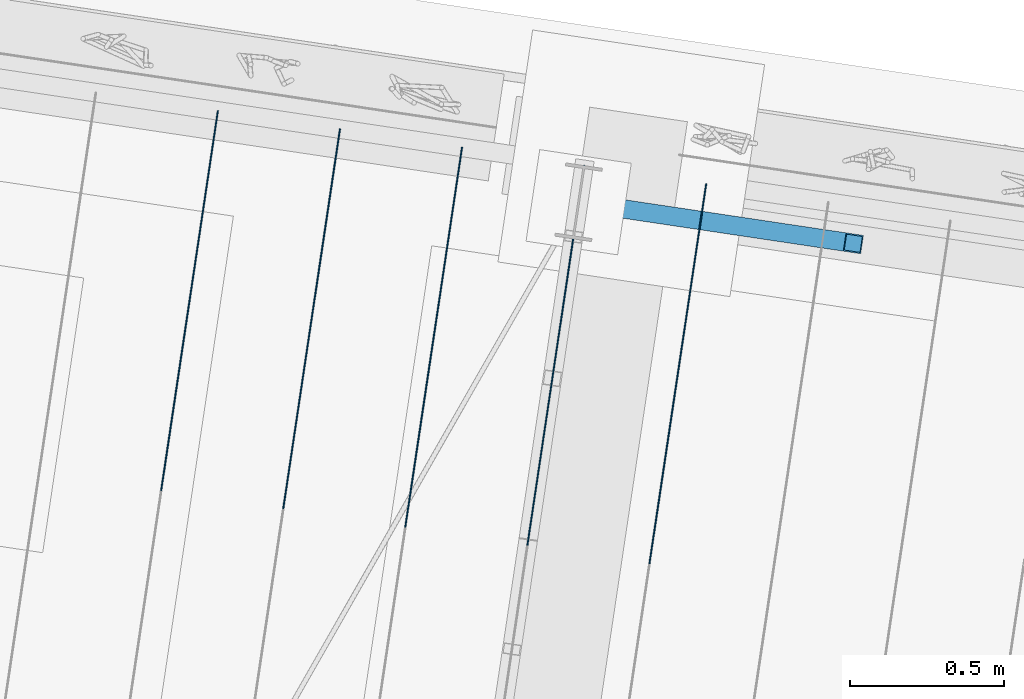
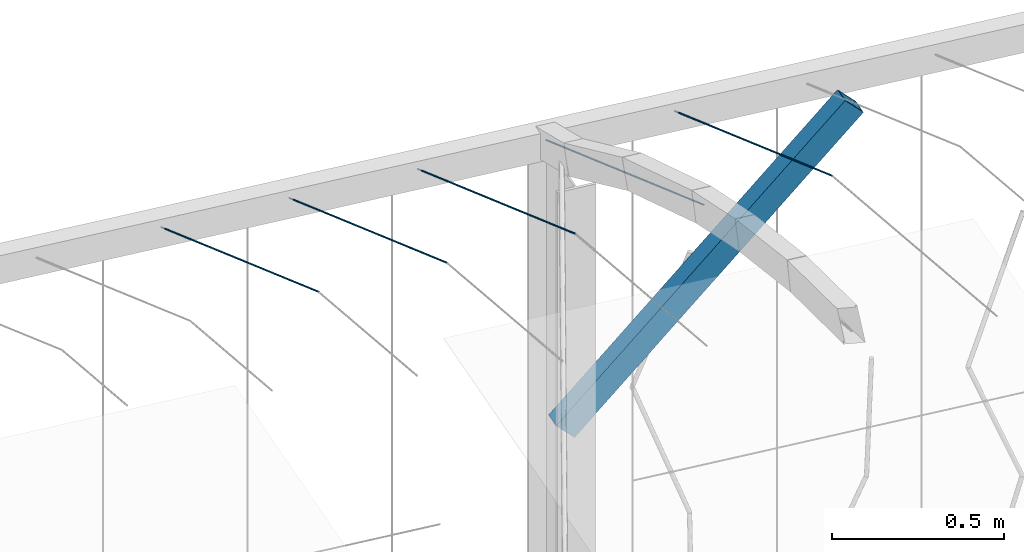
# One storey, part 35 of 143: 6 members, 1 element without a shape of its own.
"""IFC4 building model written with IfcOpenShell, lengths in metres."""

from ifc_helpers import new_model, si_unit, direction, frame, origin_with_axes, place, context, subcontext, project, spatial, hollow_rectangle, circle, extrude, material, material_profile, profile_set, profile_usage, type_object, element, aggregate, save


model = new_model("IFC4")

# Units and contexts
model_context = context("Model", 3, precision=1e-05, world=origin_with_axes(), true_north=direction((0.0, 1.0)))
body_context = subcontext(model_context, "Body", "Model", "MODEL_VIEW")
ifc_project = project(units=[si_unit("VOLUMEUNIT", "CUBIC_METRE"), si_unit("LENGTHUNIT", "METRE"), si_unit("AREAUNIT", "SQUARE_METRE")], contexts=[model_context])

# Site, building, storey
site_placement = place(None, origin_with_axes())
site = spatial("IfcSite", under=ifc_project, at=site_placement, Name="Lares · Rua das Mercês · artigo 4771")
building_placement = place(site_placement, frame((15.0, 9.7, 15.8), z_axis=(0.0, 0.0, 1.0), x_axis=(0.989015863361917, -0.147809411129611, 0.0)))
building = spatial("IfcBuilding", under=site, at=building_placement, Name="Casa Sobreposta")
storey_placement = place(building_placement, origin_with_axes())
storey = spatial("IfcBuildingStorey", under=building, at=storey_placement, Name="00 · Habitação e estacionamento", Elevation=15.8)

# Assembly, members
assembly_placement = place(storey_placement, origin_with_axes())
assembly = element("IfcElementAssembly", 1, at=assembly_placement, inside=storey, Name="Pérgola · prolongamento da estufa 6 m", ObjectType="PERGOLA_GREENHOUSE_EXTENSION", PredefinedType="USERDEFINED")
ifc_material_1 = material(Name="Aço pintado / Stahl lackiert", Category="steel")
ifc_material_profile_1 = material_profile(ifc_material_1, hollow_rectangle(XDim=0.06, YDim=0.08, WallThickness=0.004))
ifc_profile_set_1 = profile_set([ifc_material_profile_1], Name="RHS80x60x4")
ifc_profile_usage_1 = profile_usage(ifc_profile_set_1)
member_type_1 = type_object("IfcMemberType", Name="RHS80x60x4 / steel", PredefinedType="NOTDEFINED", material=ifc_profile_set_1)
member_1_placement = place(assembly_placement, frame((-3.0, 6.28, 5.3), z_axis=(0.699294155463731, 0.0, 0.714834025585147), x_axis=(0.0, -1.0, 0.0)))
member_1 = element("IfcMember", 2, at=member_1_placement, type_object=member_type_1, material=ifc_profile_usage_1, Name="Pérgola · escora alta", context=body_context, shape_type="SweptSolid", body=[
    extrude(hollow_rectangle(XDim=0.06, YDim=0.08, WallThickness=0.004), origin_with_axes(), (0.0, 0.0, 1.0), 1.28701204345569),
])
ifc_material_2 = material(Name="Aço galvanizado / Stahl verzinkt", Category="steel")
ifc_material_profile_2 = material_profile(ifc_material_2, circle(Radius=0.002))
ifc_profile_set_2 = profile_set([ifc_material_profile_2], Name="D0.004")
ifc_profile_usage_2 = profile_usage(ifc_profile_set_2)
member_type_2 = type_object("IfcMemberType", Name="D0.004 / galvanized", PredefinedType="NOTDEFINED", material=ifc_profile_set_2)
member_2_placement = place(assembly_placement, frame((-4.2, 5.15650506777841, 6.8157371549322), z_axis=(0.0, 0.905864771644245, -0.423567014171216), x_axis=(1.0, 0.0, 0.0)))
member_2 = element("IfcMember", 3, at=member_2_placement, type_object=member_type_2, material=ifc_profile_usage_2, Name="Pérgola · fio para trepadeiras", context=body_context, shape_type="SweptSolid", body=[
    extrude(circle(Radius=0.002), origin_with_axes(), (0.0, 0.0, 1.0), 1.3727158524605),
])
ifc_profile_usage_3 = profile_usage(ifc_profile_set_2)
member_3_placement = place(assembly_placement, frame((-3.8, 5.15650506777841, 6.8157371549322), z_axis=(0.0, 0.905864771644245, -0.423567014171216), x_axis=(1.0, 0.0, 0.0)))
member_3 = element("IfcMember", 4, at=member_3_placement, type_object=member_type_2, material=ifc_profile_usage_3, Name="Pérgola · fio para trepadeiras", context=body_context, shape_type="SweptSolid", body=[
    extrude(circle(Radius=0.002), origin_with_axes(), (0.0, 0.0, 1.0), 1.3727158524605),
])
ifc_profile_usage_4 = profile_usage(ifc_profile_set_2)
member_4_placement = place(assembly_placement, frame((-3.4, 5.15650506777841, 6.8157371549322), z_axis=(0.0, 0.905864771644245, -0.423567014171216), x_axis=(1.0, 0.0, 0.0)))
member_4 = element("IfcMember", 5, at=member_4_placement, type_object=member_type_2, material=ifc_profile_usage_4, Name="Pérgola · fio para trepadeiras", context=body_context, shape_type="SweptSolid", body=[
    extrude(circle(Radius=0.002), origin_with_axes(), (0.0, 0.0, 1.0), 1.3727158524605),
])
ifc_profile_usage_5 = profile_usage(ifc_profile_set_2)
member_5_placement = place(assembly_placement, frame((-3.0, 5.15650506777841, 6.8157371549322), z_axis=(0.0, 0.905864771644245, -0.423567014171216), x_axis=(1.0, 0.0, 0.0)))
member_5 = element("IfcMember", 6, at=member_5_placement, type_object=member_type_2, material=ifc_profile_usage_5, Name="Pérgola · fio para trepadeiras", context=body_context, shape_type="SweptSolid", body=[
    extrude(circle(Radius=0.002), origin_with_axes(), (0.0, 0.0, 1.0), 1.3727158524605),
])
ifc_profile_usage_6 = profile_usage(ifc_profile_set_2)
member_6_placement = place(assembly_placement, frame((-2.6, 5.15650506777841, 6.8157371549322), z_axis=(0.0, 0.905864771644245, -0.423567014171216), x_axis=(1.0, 0.0, 0.0)))
member_6 = element("IfcMember", 7, at=member_6_placement, type_object=member_type_2, material=ifc_profile_usage_6, Name="Pérgola · fio para trepadeiras", context=body_context, shape_type="SweptSolid", body=[
    extrude(circle(Radius=0.002), origin_with_axes(), (0.0, 0.0, 1.0), 1.3727158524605),
])
aggregate(assembly, [member_1, member_2, member_3, member_4, member_5, member_6])

save(model, "model.ifc")
